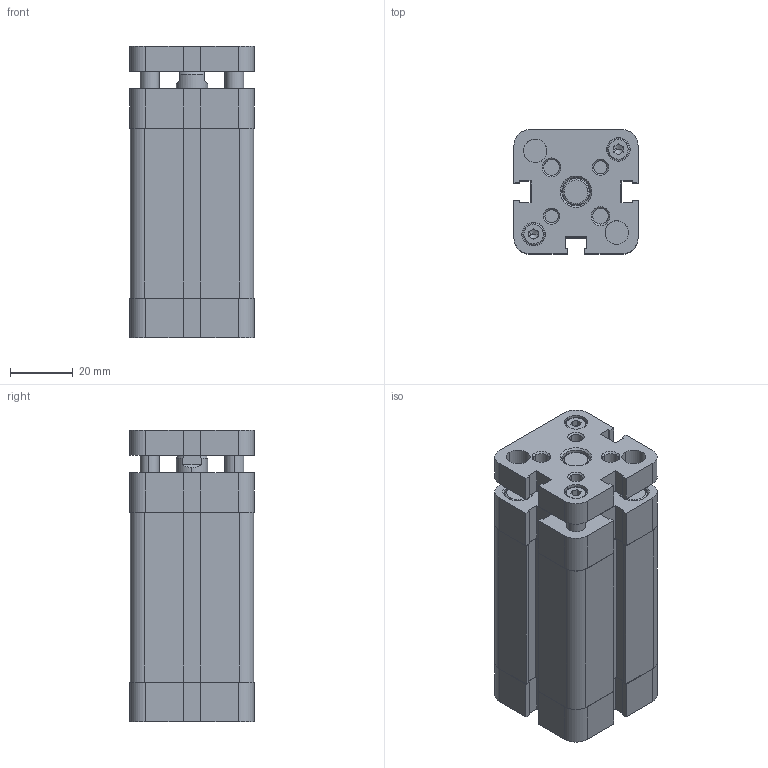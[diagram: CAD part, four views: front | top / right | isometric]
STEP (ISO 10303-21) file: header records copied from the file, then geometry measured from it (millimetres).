
FILE_DESCRIPTION (( 'STEP AP214' ), '1' );
FILE_NAME ('WACC-G-025-0040 (3D).STEP', '2020-10-16T06:18:36', ( '' ), ( '' ), 'SwSTEP 2.0', 'SolidWorks 2016', '' );
FILE_SCHEMA (( 'AUTOMOTIVE_DESIGN' ));
Length unit declared in the file: millimetre
Products named in the file (3): Group2^WACC-G-025-0040 (3D); Group1^WACC-G-025-0040 (3D); WACC-G-025-0040 (3D)
Assembly tree (2 placements, depth 2):
  WACC-G-025-0040 (3D)
    Group1^WACC-G-025-0040 (3D)
    Group2^WACC-G-025-0040 (3D)
Bounding box: 39.5 x 39.5 x 92.95 mm (x, y, z)
Volume: 101463.3 mm3; surface area: 46465.9 mm2
Topology: 14 solids, 14 shells, 621 faces, 1571 edges, 1018 vertices
Faces by surface type: plane 383, bspline 100, cylinder 98, cone 40
Entity records: 24771 total; most frequent: CARTESIAN_POINT 8993, ORIENTED_EDGE 3126, DIRECTION 2687, EDGE_CURVE 1563, VECTOR 1103, LINE 1103, VERTEX_POINT 1018, AXIS2_PLACEMENT_3D 792
